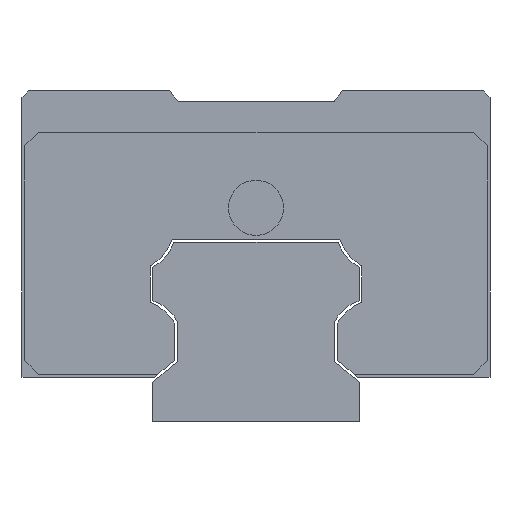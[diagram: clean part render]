
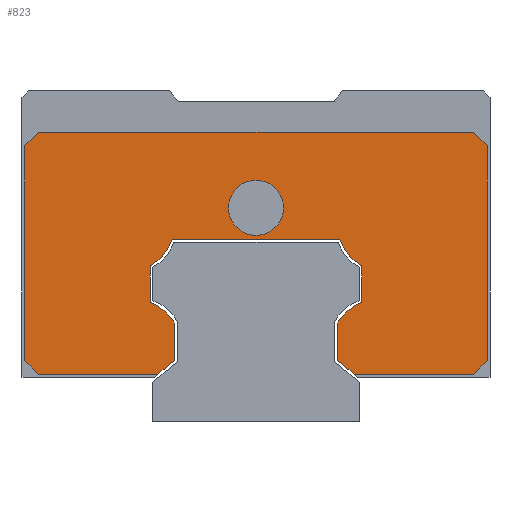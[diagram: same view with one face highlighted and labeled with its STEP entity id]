
A CAD part, left-side view. The second image highlights one B-rep face of the part: STEP entity #823.
In plain terms, the highlighted planar face has unit normal (-1, 0, 0).
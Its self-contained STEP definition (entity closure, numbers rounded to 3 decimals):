
#602=FACE_BOUND('',#1155,.T.);
#603=FACE_BOUND('',#1156,.T.);
#730=CIRCLE('',#2719,3.5);
#731=CIRCLE('',#2722,3.5);
#732=CIRCLE('',#2725,3.5);
#733=CIRCLE('',#2728,3.5);
#734=CIRCLE('',#2734,2.);
#823=ADVANCED_FACE('',(#602,#603),#909,.F.);
#909=PLANE('',#2735);
#1155=EDGE_LOOP('',(#1518));
#1156=EDGE_LOOP('',(#1519,#1520,#1521,#1522,#1523,#1524,#1525,#1526,#1527,
#1528,#1529,#1530,#1531,#1532,#1533,#1534,#1535,#1536,#1537,#1538));
#1518=ORIENTED_EDGE('',*,*,#2133,.F.);
#1519=ORIENTED_EDGE('',*,*,#2131,.F.);
#1520=ORIENTED_EDGE('',*,*,#2134,.T.);
#1521=ORIENTED_EDGE('',*,*,#2126,.F.);
#1522=ORIENTED_EDGE('',*,*,#2125,.F.);
#1523=ORIENTED_EDGE('',*,*,#2118,.F.);
#1524=ORIENTED_EDGE('',*,*,#2112,.F.);
#1525=ORIENTED_EDGE('',*,*,#2111,.F.);
#1526=ORIENTED_EDGE('',*,*,#2103,.F.);
#1527=ORIENTED_EDGE('',*,*,#2102,.F.);
#1528=ORIENTED_EDGE('',*,*,#2094,.F.);
#1529=ORIENTED_EDGE('',*,*,#2093,.F.);
#1530=ORIENTED_EDGE('',*,*,#2085,.F.);
#1531=ORIENTED_EDGE('',*,*,#2083,.F.);
#1532=ORIENTED_EDGE('',*,*,#2078,.F.);
#1533=ORIENTED_EDGE('',*,*,#2070,.F.);
#1534=ORIENTED_EDGE('',*,*,#2135,.T.);
#1535=ORIENTED_EDGE('',*,*,#2066,.F.);
#1536=ORIENTED_EDGE('',*,*,#2136,.T.);
#1537=ORIENTED_EDGE('',*,*,#2062,.F.);
#1538=ORIENTED_EDGE('',*,*,#2137,.T.);
#1848=VERTEX_POINT('',#3669);
#1849=VERTEX_POINT('',#3671);
#1852=VERTEX_POINT('',#3678);
#1853=VERTEX_POINT('',#3680);
#1856=VERTEX_POINT('',#3687);
#1857=VERTEX_POINT('',#3689);
#1858=VERTEX_POINT('',#3693);
#1864=VERTEX_POINT('',#3707);
#1869=VERTEX_POINT('',#3719);
#1870=VERTEX_POINT('',#3723);
#1875=VERTEX_POINT('',#3736);
#1876=VERTEX_POINT('',#3740);
#1881=VERTEX_POINT('',#3753);
#1882=VERTEX_POINT('',#3757);
#1887=VERTEX_POINT('',#3770);
#1888=VERTEX_POINT('',#3774);
#1892=VERTEX_POINT('',#3784);
#1898=VERTEX_POINT('',#3798);
#1902=VERTEX_POINT('',#3807);
#1903=VERTEX_POINT('',#3809);
#1904=VERTEX_POINT('',#3813);
#2062=EDGE_CURVE('',#1848,#1849,#2267,.T.);
#2066=EDGE_CURVE('',#1852,#1853,#2271,.T.);
#2070=EDGE_CURVE('',#1856,#1857,#2275,.T.);
#2078=EDGE_CURVE('',#1857,#1858,#2283,.T.);
#2083=EDGE_CURVE('',#1858,#1864,#2288,.T.);
#2085=EDGE_CURVE('',#1864,#1869,#730,.T.);
#2093=EDGE_CURVE('',#1869,#1870,#2296,.T.);
#2094=EDGE_CURVE('',#1870,#1875,#731,.T.);
#2102=EDGE_CURVE('',#1875,#1876,#2304,.T.);
#2103=EDGE_CURVE('',#1876,#1881,#732,.T.);
#2111=EDGE_CURVE('',#1881,#1882,#2312,.T.);
#2112=EDGE_CURVE('',#1882,#1887,#733,.T.);
#2118=EDGE_CURVE('',#1887,#1888,#2318,.T.);
#2125=EDGE_CURVE('',#1888,#1892,#2325,.T.);
#2126=EDGE_CURVE('',#1892,#1898,#2326,.T.);
#2131=EDGE_CURVE('',#1902,#1903,#2331,.T.);
#2133=EDGE_CURVE('',#1904,#1904,#734,.T.);
#2134=EDGE_CURVE('',#1902,#1898,#2333,.T.);
#2135=EDGE_CURVE('',#1856,#1853,#2334,.T.);
#2136=EDGE_CURVE('',#1852,#1849,#2335,.T.);
#2137=EDGE_CURVE('',#1848,#1903,#2336,.T.);
#2267=LINE('',#3670,#2451);
#2271=LINE('',#3679,#2455);
#2275=LINE('',#3688,#2459);
#2283=LINE('',#3704,#2467);
#2288=LINE('',#3714,#2472);
#2296=LINE('',#3733,#2480);
#2304=LINE('',#3750,#2488);
#2312=LINE('',#3767,#2496);
#2318=LINE('',#3781,#2502);
#2325=LINE('',#3795,#2509);
#2326=LINE('',#3797,#2510);
#2331=LINE('',#3808,#2515);
#2333=LINE('',#3814,#2517);
#2334=LINE('',#3815,#2518);
#2335=LINE('',#3816,#2519);
#2336=LINE('',#3817,#2520);
#2451=VECTOR('',#3096,1.);
#2455=VECTOR('',#3102,1.);
#2459=VECTOR('',#3108,1.);
#2467=VECTOR('',#3118,1.);
#2472=VECTOR('',#3125,1.);
#2480=VECTOR('',#3141,1.);
#2488=VECTOR('',#3155,1.);
#2496=VECTOR('',#3169,1.);
#2502=VECTOR('',#3181,1.);
#2509=VECTOR('',#3190,1.);
#2510=VECTOR('',#3193,1.);
#2515=VECTOR('',#3200,1.);
#2517=VECTOR('',#3206,1.);
#2518=VECTOR('',#3207,1.);
#2519=VECTOR('',#3208,1.);
#2520=VECTOR('',#3209,1.);
#2719=AXIS2_PLACEMENT_3D('',#3718,#3130,#3131);
#2722=AXIS2_PLACEMENT_3D('',#3735,#3144,#3145);
#2725=AXIS2_PLACEMENT_3D('',#3752,#3158,#3159);
#2728=AXIS2_PLACEMENT_3D('',#3769,#3172,#3173);
#2734=AXIS2_PLACEMENT_3D('',#3812,#3204,#3205);
#2735=AXIS2_PLACEMENT_3D('',#3818,#3210,#3211);
#3096=DIRECTION('',(0.,-1.,0.));
#3102=DIRECTION('',(0.,0.,-1.));
#3108=DIRECTION('',(0.,1.,0.));
#3118=DIRECTION('',(0.,0.766,0.643));
#3125=DIRECTION('',(0.,0.,1.));
#3130=DIRECTION('',(1.,0.,0.));
#3131=DIRECTION('',(0.,1.,0.));
#3141=DIRECTION('',(0.,0.,1.));
#3144=DIRECTION('',(1.,0.,0.));
#3145=DIRECTION('',(0.,1.,0.));
#3155=DIRECTION('',(0.,1.,0.));
#3158=DIRECTION('',(1.,0.,0.));
#3159=DIRECTION('',(0.,-1.,0.));
#3169=DIRECTION('',(0.,0.,-1.));
#3172=DIRECTION('',(1.,0.,0.));
#3173=DIRECTION('',(0.,-1.,0.));
#3181=DIRECTION('',(0.,0.,-1.));
#3190=DIRECTION('',(0.,0.766,-0.643));
#3193=DIRECTION('',(0.,1.,0.));
#3200=DIRECTION('',(0.,0.,1.));
#3204=DIRECTION('',(-1.,0.,0.));
#3205=DIRECTION('',(0.,1.,0.));
#3206=DIRECTION('',(0.,-0.707,-0.707));
#3207=DIRECTION('',(0.,-0.707,0.707));
#3208=DIRECTION('',(0.,0.707,0.707));
#3209=DIRECTION('',(0.,0.707,-0.707));
#3210=DIRECTION('',(1.,0.,0.));
#3211=DIRECTION('',(0.,0.,-1.));
#3669=CARTESIAN_POINT('',(-20.15,15.8,21.));
#3670=CARTESIAN_POINT('',(-20.15,16.8,21.));
#3671=CARTESIAN_POINT('',(-20.15,-15.8,21.));
#3678=CARTESIAN_POINT('',(-20.15,-16.8,20.));
#3679=CARTESIAN_POINT('',(-20.15,-16.8,21.));
#3680=CARTESIAN_POINT('',(-20.15,-16.8,4.4));
#3687=CARTESIAN_POINT('',(-20.15,-15.8,3.4));
#3688=CARTESIAN_POINT('',(-20.15,-16.8,3.4));
#3689=CARTESIAN_POINT('',(-20.15,-7.136,3.4));
#3693=CARTESIAN_POINT('',(-20.15,-5.912,4.427));
#3704=CARTESIAN_POINT('',(-20.15,-7.136,3.4));
#3707=CARTESIAN_POINT('',(-20.15,-5.912,7.129));
#3714=CARTESIAN_POINT('',(-20.15,-5.912,4.427));
#3718=CARTESIAN_POINT('',(-20.15,-8.927,5.351));
#3719=CARTESIAN_POINT('',(-20.15,-7.7,8.629));
#3723=CARTESIAN_POINT('',(-20.15,-7.7,11.285));
#3733=CARTESIAN_POINT('',(-20.15,-7.7,8.629));
#3735=CARTESIAN_POINT('',(-20.15,-9.401,14.344));
#3736=CARTESIAN_POINT('',(-20.15,-6.093,13.2));
#3740=CARTESIAN_POINT('',(-20.15,6.093,13.2));
#3750=CARTESIAN_POINT('',(-20.15,-6.093,13.2));
#3752=CARTESIAN_POINT('',(-20.15,9.401,14.344));
#3753=CARTESIAN_POINT('',(-20.15,7.7,11.285));
#3757=CARTESIAN_POINT('',(-20.15,7.7,8.629));
#3767=CARTESIAN_POINT('',(-20.15,7.7,11.285));
#3769=CARTESIAN_POINT('',(-20.15,8.927,5.351));
#3770=CARTESIAN_POINT('',(-20.15,5.912,7.129));
#3774=CARTESIAN_POINT('',(-20.15,5.912,4.427));
#3781=CARTESIAN_POINT('',(-20.15,5.912,7.129));
#3784=CARTESIAN_POINT('',(-20.15,7.136,3.4));
#3795=CARTESIAN_POINT('',(-20.15,5.912,4.427));
#3797=CARTESIAN_POINT('',(-20.15,7.136,3.4));
#3798=CARTESIAN_POINT('',(-20.15,15.8,3.4));
#3807=CARTESIAN_POINT('',(-20.15,16.8,4.4));
#3808=CARTESIAN_POINT('',(-20.15,16.8,3.4));
#3809=CARTESIAN_POINT('',(-20.15,16.8,20.));
#3812=CARTESIAN_POINT('',(-20.15,0.,15.5));
#3813=CARTESIAN_POINT('',(-20.15,2.,15.5));
#3814=CARTESIAN_POINT('',(-20.15,15.8,3.4));
#3815=CARTESIAN_POINT('',(-20.15,-16.8,4.4));
#3816=CARTESIAN_POINT('',(-20.15,-15.8,21.));
#3817=CARTESIAN_POINT('',(-20.15,16.8,20.));
#3818=CARTESIAN_POINT('',(-20.15,-8.927,5.351));
